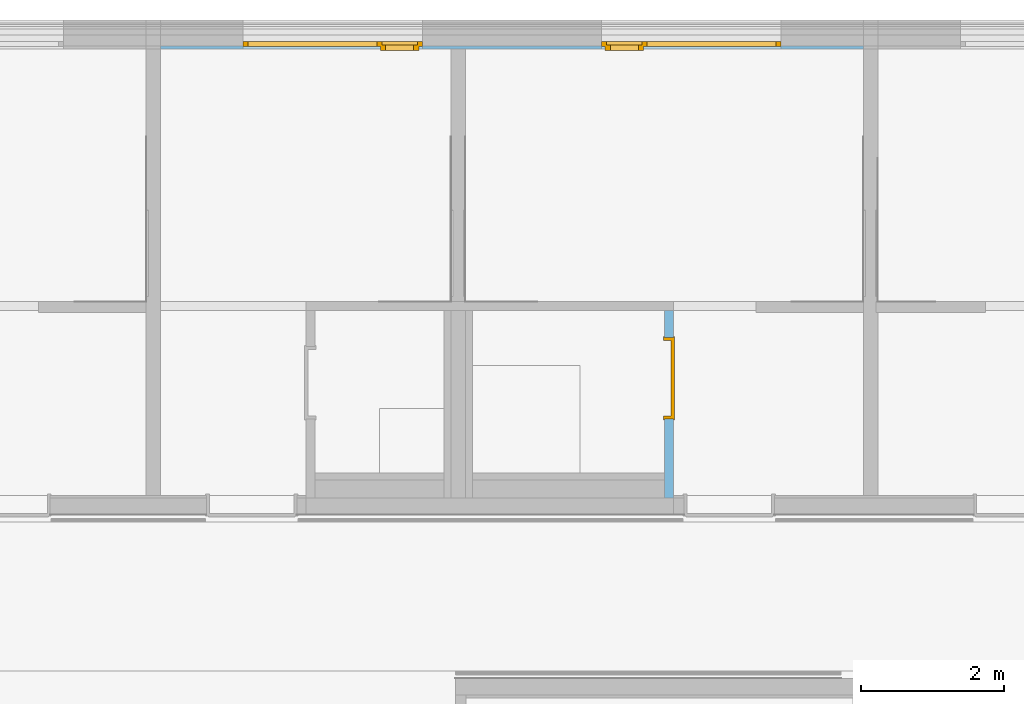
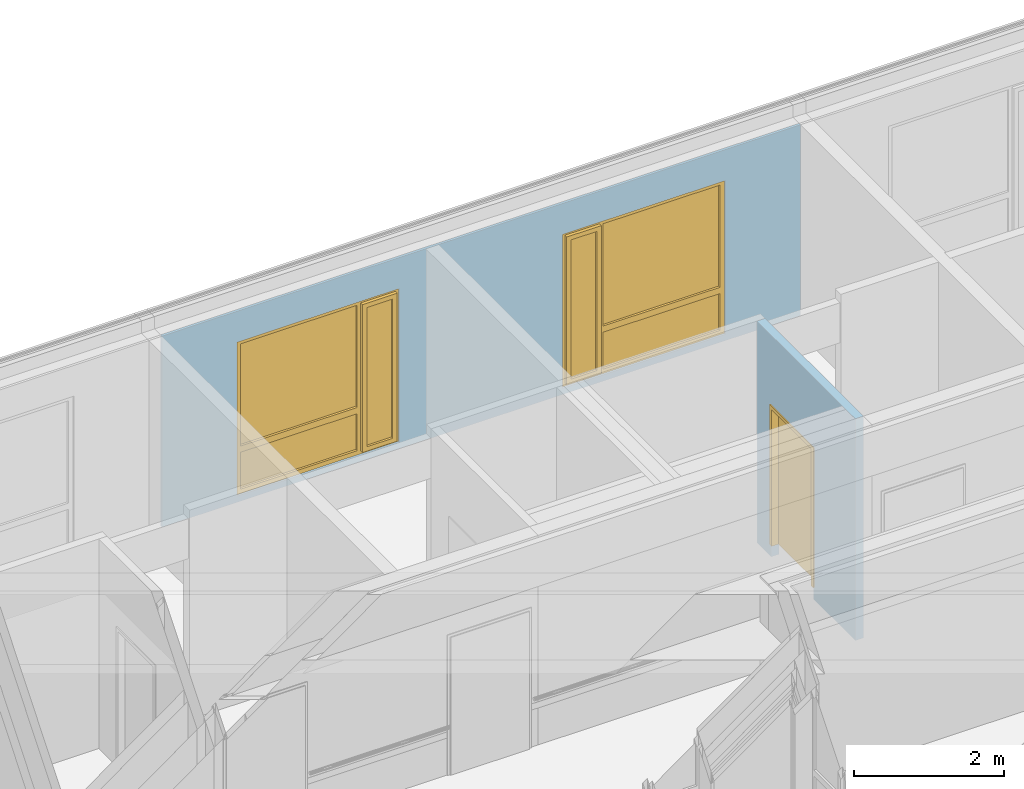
# One storey, part 149 of 207: 2 windows, 1 door, 3 openings, plus 2 elements that do not belong to this part.
"""IFC4 building model written with IfcOpenShell, lengths in metres."""

from ifc_helpers import new_model, entity, si_unit, converted_unit, derived_unit, frame, frame_2d, origin, origin_with_axes, place, context, subcontext, project, spatial, polyline, rectangle, outline, extrude, closed_shell, open_shell, faceted_brep, surface_model, source, transform, mapped, material, type_object, element, fill, save


model = new_model("IFC4")

# Units and contexts
model_context = context("Model", 3, precision=1e-05, world=origin())
body_context = subcontext(model_context, "Body", "Model", "MODEL_VIEW")
ifc_project = project(units=[si_unit("LENGTHUNIT", "METRE"), si_unit("AREAUNIT", "SQUARE_METRE"), si_unit("VOLUMEUNIT", "CUBIC_METRE"), si_unit("MASSUNIT", "GRAM", prefix="KILO"), converted_unit("PLANEANGLEUNIT", "DEGREE", entity("IfcPlaneAngleMeasure", 0.0174532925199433), si_unit("PLANEANGLEUNIT", "RADIAN"), dimensions=[0, 0, 0, 0, 0, 0, 0]), derived_unit("THERMALTRANSMITTANCEUNIT", [(si_unit("POWERUNIT", "WATT"), 1), (si_unit("THERMODYNAMICTEMPERATUREUNIT", "KELVIN"), -1), (si_unit("LENGTHUNIT", "METRE"), -2)]), derived_unit("VOLUMETRICFLOWRATEUNIT", [(si_unit("LENGTHUNIT", "METRE"), 3), (converted_unit("TIMEUNIT", "hour", entity("IfcTimeMeasure", 3600.0), si_unit("TIMEUNIT", "SECOND"), dimensions=[0, 0, 1, 0, 0, 0, 0]), -1), (si_unit("LENGTHUNIT", "METRE"), -1)])], contexts=[model_context])

# Site, building, storey
site_placement = place(None, origin())
site = spatial("IfcSite", under=ifc_project, at=site_placement, Name="Psychiatrie Neubau Wunstorf", CompositionType="ELEMENT")
building_placement = place(site_placement, origin())
building = spatial("IfcBuilding", under=site, at=building_placement, Name="Neubau H2 Stationsgebäude", CompositionType="ELEMENT")
storey_placement = place(building_placement, frame((0.0, 0.0, -0.2)))
storey = spatial("IfcBuildingStorey", under=building, at=storey_placement, Name="H2 Ebene 0", CompositionType="ELEMENT", Elevation=-0.2)

# Wall, openings, windows
ifc_material_1 = material(Name="WA-LB")
wall_1_placement = place(storey_placement, frame((86.1, 31.614, 0.5)))
wall_1 = element("IfcWall", 1, at=wall_1_placement, inside=storey, material=ifc_material_1, context=body_context, shape_type="SweptSolid", body=[
    extrude(rectangle(XDim=9.8, YDim=0.036, at=frame_2d((4.9, 0.018), x_axis=(1.0, 0.0))), origin_with_axes(), (0.0, 0.0, 1.0), 3.1),
])
opening_1_placement = place(wall_1_placement, frame((6.15, 0.0, 0.1), z_axis=(0.0, 1.0, 0.0), x_axis=(0.0, 0.0, 1.0)))
opening_1 = element("IfcOpeningElement", 2, at=opening_1_placement, cuts=wall_1, Name="Fensteröffnung", ObjectType="Opening", context=body_context, shape_type="SweptSolid", body=[
    extrude(outline(polyline([(2.5, 2.5), (2.5, 0.0), (0.0, 0.0), (0.0, 2.5), (2.5, 2.5)])), origin_with_axes(), (0.0, 0.0, 1.0), 0.036),
])
opening_2_placement = place(wall_1_placement, frame((1.15, 0.0, 0.1), z_axis=(0.0, 1.0, 0.0), x_axis=(0.0, 0.0, 1.0)))
opening_2 = element("IfcOpeningElement", 3, at=opening_2_placement, cuts=wall_1, Name="Fensteröffnung", ObjectType="Opening", context=body_context, shape_type="SweptSolid", body=[
    extrude(outline(polyline([(2.5, 2.5), (2.5, 0.0), (0.0, 0.0), (0.0, 2.5), (2.5, 2.5)])), origin_with_axes(), (0.0, 0.0, 1.0), 0.036),
])
shared_shape_1 = source(origin_with_axes(), body_context, "Body", "SurfaceModel", [
    surface_model("IfcShellBasedSurfaceModel", [(0.0, 0.0, 2.5), (0.07, 0.0, 2.5), (0.07, 0.0, 0.0), (0.0, 0.0, 0.0), (0.0, 0.0699999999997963, 0.0), (0.07, 0.0699999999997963, 0.0), (0.07, 0.0699999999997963, 2.5), (0.0, 0.0699999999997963, 2.5)], [closed_shell([[[0, 1, 2, 3]], [[4, 5, 6, 7]], [[3, 4, 7, 0]], [[2, 5, 4, 3]], [[1, 6, 5, 2]], [[0, 7, 6, 1]]], orient=[[False], [False], [False], [False], [False], [False]])]),
    surface_model("IfcShellBasedSurfaceModel", [(2.43, 0.0, 2.5), (2.5, 0.0, 2.5), (2.5, 0.0, 0.0), (2.43, 0.0, 0.0), (2.43, 0.0699999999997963, 0.0), (2.5, 0.0699999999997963, 0.0), (2.5, 0.0699999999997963, 2.5), (2.43, 0.0699999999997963, 2.5)], [closed_shell([[[0, 1, 2, 3]], [[4, 5, 6, 7]], [[3, 4, 7, 0]], [[2, 5, 4, 3]], [[1, 6, 5, 2]], [[0, 7, 6, 1]]], orient=[[False], [False], [False], [False], [False], [False]])]),
    surface_model("IfcShellBasedSurfaceModel", [(0.07, 0.0, 0.07), (2.43, 0.0, 0.07), (2.43, 0.0, 0.0), (0.07, 0.0, 0.0), (0.07, 0.0699999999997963, 0.0), (2.43, 0.0699999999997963, 0.0), (2.43, 0.0699999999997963, 0.07), (0.07, 0.0699999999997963, 0.07)], [closed_shell([[[0, 1, 2, 3]], [[4, 5, 6, 7]], [[3, 4, 7, 0]], [[2, 5, 4, 3]], [[1, 6, 5, 2]], [[0, 7, 6, 1]]], orient=[[False], [False], [False], [False], [False], [False]])]),
    surface_model("IfcShellBasedSurfaceModel", [(0.07, 0.0, 2.5), (2.43, 0.0, 2.5), (2.43, 0.0, 2.43), (0.07, 0.0, 2.43), (0.07, 0.0699999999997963, 2.43), (2.43, 0.0699999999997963, 2.43), (2.43, 0.0699999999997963, 2.5), (0.07, 0.0699999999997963, 2.5)], [closed_shell([[[0, 1, 2, 3]], [[4, 5, 6, 7]], [[3, 4, 7, 0]], [[2, 5, 4, 3]], [[1, 6, 5, 2]], [[0, 7, 6, 1]]], orient=[[False], [False], [False], [False], [False], [False]])]),
    surface_model("IfcShellBasedSurfaceModel", [(0.565714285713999, 0.0, 2.43), (0.635714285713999, 0.0, 2.43), (0.635714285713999, 0.0, 0.07), (0.565714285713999, 0.0, 0.07), (0.565714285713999, 0.0699999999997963, 0.07), (0.635714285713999, 0.0699999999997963, 0.07), (0.635714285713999, 0.0699999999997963, 2.43), (0.565714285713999, 0.0699999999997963, 2.43)], [closed_shell([[[0, 1, 2, 3]], [[4, 5, 6, 7]], [[3, 4, 7, 0]], [[2, 5, 4, 3]], [[1, 6, 5, 2]], [[0, 7, 6, 1]]], orient=[[False], [False], [False], [False], [False], [False]])]),
    surface_model("IfcShellBasedSurfaceModel", [(0.05, -0.0500000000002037, 2.45), (0.12, -0.0500000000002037, 2.45), (0.12, -0.0500000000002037, 0.05), (0.05, -0.0500000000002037, 0.05), (0.05, 0.0199999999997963, 0.05), (0.12, 0.0199999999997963, 0.05), (0.12, 0.0199999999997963, 2.45), (0.05, 0.0199999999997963, 2.45)], [closed_shell([[[0, 1, 2, 3]], [[4, 5, 6, 7]], [[3, 4, 7, 0]], [[2, 5, 4, 3]], [[1, 6, 5, 2]], [[0, 7, 6, 1]]], orient=[[False], [False], [False], [False], [False], [False]])]),
    surface_model("IfcShellBasedSurfaceModel", [(0.515714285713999, -0.0500000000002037, 2.45), (0.585714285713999, -0.0500000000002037, 2.45), (0.585714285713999, -0.0500000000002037, 0.05), (0.515714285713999, -0.0500000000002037, 0.05), (0.515714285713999, 0.0199999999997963, 0.05), (0.585714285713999, 0.0199999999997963, 0.05), (0.585714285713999, 0.0199999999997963, 2.45), (0.515714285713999, 0.0199999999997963, 2.45)], [closed_shell([[[0, 1, 2, 3]], [[4, 5, 6, 7]], [[3, 4, 7, 0]], [[2, 5, 4, 3]], [[1, 6, 5, 2]], [[0, 7, 6, 1]]], orient=[[False], [False], [False], [False], [False], [False]])]),
    surface_model("IfcShellBasedSurfaceModel", [(0.12, -0.0500000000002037, 0.12), (0.515714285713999, -0.0500000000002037, 0.12), (0.515714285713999, -0.0500000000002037, 0.05), (0.12, -0.0500000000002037, 0.05), (0.12, 0.0199999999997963, 0.05), (0.515714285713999, 0.0199999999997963, 0.05), (0.515714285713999, 0.0199999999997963, 0.12), (0.12, 0.0199999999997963, 0.12)], [closed_shell([[[0, 1, 2, 3]], [[4, 5, 6, 7]], [[3, 4, 7, 0]], [[2, 5, 4, 3]], [[1, 6, 5, 2]], [[0, 7, 6, 1]]], orient=[[False], [False], [False], [False], [False], [False]])]),
    surface_model("IfcShellBasedSurfaceModel", [(0.12, -0.0500000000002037, 2.45), (0.515714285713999, -0.0500000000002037, 2.45), (0.515714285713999, -0.0500000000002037, 2.38), (0.12, -0.0500000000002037, 2.38), (0.12, 0.0199999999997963, 2.38), (0.515714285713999, 0.0199999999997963, 2.38), (0.515714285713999, 0.0199999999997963, 2.45), (0.12, 0.0199999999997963, 2.45)], [closed_shell([[[0, 1, 2, 3]], [[4, 5, 6, 7]], [[3, 4, 7, 0]], [[2, 5, 4, 3]], [[1, 6, 5, 2]], [[0, 7, 6, 1]]], orient=[[False], [False], [False], [False], [False], [False]])]),
    surface_model("IfcShellBasedSurfaceModel", [(0.635714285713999, 0.0, 0.77), (2.43, 0.0, 0.77), (2.43, 0.0, 0.67), (0.635714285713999, 0.0, 0.67), (0.635714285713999, 0.0699999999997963, 0.67), (2.43, 0.0699999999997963, 0.67), (2.43, 0.0699999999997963, 0.77), (0.635714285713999, 0.0699999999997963, 0.77)], [closed_shell([[[0, 1, 2, 3]], [[4, 5, 6, 7]], [[3, 4, 7, 0]], [[2, 5, 4, 3]], [[1, 6, 5, 2]], [[0, 7, 6, 1]]], orient=[[False], [False], [False], [False], [False], [False]])]),
    surface_model("IfcShellBasedSurfaceModel", [(0.12, -0.0150000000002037, 0.12), (0.12, -0.0150000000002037, 2.38), (0.515714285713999, -0.0150000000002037, 2.38), (0.515714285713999, -0.0150000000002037, 0.12)], [open_shell([[[0, 1, 2, 3]]], orient=[[False]])]),
    surface_model("IfcShellBasedSurfaceModel", [(0.635714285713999, 0.0349999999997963, 0.07), (0.635714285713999, 0.0349999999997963, 0.67), (2.43, 0.0349999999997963, 0.67), (2.43, 0.0349999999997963, 0.07)], [open_shell([[[0, 1, 2, 3]]], orient=[[False]])]),
    surface_model("IfcShellBasedSurfaceModel", [(0.635714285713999, 0.0349999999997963, 0.77), (0.635714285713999, 0.0349999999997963, 2.43), (2.43, 0.0349999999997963, 2.43), (2.43, 0.0349999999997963, 0.77)], [open_shell([[[0, 1, 2, 3]]], orient=[[False]])]),
])
window_1_placement = place(opening_1_placement, frame((0.0, 0.0, 0.03), z_axis=(1.0, 0.0, 0.0), x_axis=(0.0, 1.0, 0.0)))
window_1 = element("IfcWindow", 4, at=window_1_placement, inside=storey, Name="Fenster", OverallHeight=2.5, OverallWidth=2.5, PartitioningType="USERDEFINED", PredefinedType="WINDOW", context=body_context, shape_type="MappedRepresentation", body=[
    mapped(shared_shape_1, transform((0.0, 0.0, 0.0), x_axis=(1.0, 0.0, 0.0), y_axis=(0.0, 1.0, 0.0), z_axis=(0.0, 0.0, 1.0), scale=1.0)),
])
fill(opening_1, window_1)
shared_shape_2 = source(origin_with_axes(), body_context, "Body", "SurfaceModel", [
    surface_model("IfcShellBasedSurfaceModel", [(2.5, 0.0, 2.5), (2.5, 0.0, 0.0), (2.43, 0.0, 0.0), (2.43, 0.0, 2.5), (2.5, 0.0699999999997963, 0.0), (2.5, 0.0699999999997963, 2.5), (2.43, 0.0699999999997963, 2.5), (2.43, 0.0699999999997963, 0.0)], [closed_shell([[[0, 1, 2, 3]], [[4, 5, 6, 7]], [[1, 0, 5, 4]], [[2, 1, 4, 7]], [[3, 2, 7, 6]], [[0, 3, 6, 5]]], orient=[[False], [False], [False], [False], [False], [False]])]),
    surface_model("IfcShellBasedSurfaceModel", [(0.07, 0.0, 2.5), (0.07, 0.0, 0.0), (0.0, 0.0, 0.0), (0.0, 0.0, 2.5), (0.07, 0.0699999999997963, 0.0), (0.07, 0.0699999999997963, 2.5), (0.0, 0.0699999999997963, 2.5), (0.0, 0.0699999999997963, 0.0)], [closed_shell([[[0, 1, 2, 3]], [[4, 5, 6, 7]], [[1, 0, 5, 4]], [[2, 1, 4, 7]], [[3, 2, 7, 6]], [[0, 3, 6, 5]]], orient=[[False], [False], [False], [False], [False], [False]])]),
    surface_model("IfcShellBasedSurfaceModel", [(2.43, 0.0, 0.07), (2.43, 0.0, 0.0), (0.07, 0.0, 0.0), (0.07, 0.0, 0.07), (2.43, 0.0699999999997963, 0.0), (2.43, 0.0699999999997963, 0.07), (0.07, 0.0699999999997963, 0.07), (0.07, 0.0699999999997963, 0.0)], [closed_shell([[[0, 1, 2, 3]], [[4, 5, 6, 7]], [[1, 0, 5, 4]], [[2, 1, 4, 7]], [[3, 2, 7, 6]], [[0, 3, 6, 5]]], orient=[[False], [False], [False], [False], [False], [False]])]),
    surface_model("IfcShellBasedSurfaceModel", [(2.43, 0.0, 2.5), (2.43, 0.0, 2.43), (0.07, 0.0, 2.43), (0.07, 0.0, 2.5), (2.43, 0.0699999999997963, 2.43), (2.43, 0.0699999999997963, 2.5), (0.07, 0.0699999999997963, 2.5), (0.07, 0.0699999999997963, 2.43)], [closed_shell([[[0, 1, 2, 3]], [[4, 5, 6, 7]], [[1, 0, 5, 4]], [[2, 1, 4, 7]], [[3, 2, 7, 6]], [[0, 3, 6, 5]]], orient=[[False], [False], [False], [False], [False], [False]])]),
    surface_model("IfcShellBasedSurfaceModel", [(1.934285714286, 0.0, 2.43), (1.934285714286, 0.0, 0.07), (1.864285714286, 0.0, 0.07), (1.864285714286, 0.0, 2.43), (1.934285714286, 0.0699999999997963, 0.07), (1.934285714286, 0.0699999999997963, 2.43), (1.864285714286, 0.0699999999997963, 2.43), (1.864285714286, 0.0699999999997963, 0.07)], [closed_shell([[[0, 1, 2, 3]], [[4, 5, 6, 7]], [[1, 0, 5, 4]], [[2, 1, 4, 7]], [[3, 2, 7, 6]], [[0, 3, 6, 5]]], orient=[[False], [False], [False], [False], [False], [False]])]),
    surface_model("IfcShellBasedSurfaceModel", [(2.45, -0.05, 2.45), (2.45, -0.05, 0.05), (2.38, -0.05, 0.05), (2.38, -0.05, 2.45), (2.45, 0.0199999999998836, 0.05), (2.45, 0.0199999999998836, 2.45), (2.38, 0.0199999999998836, 2.45), (2.38, 0.0199999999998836, 0.05)], [closed_shell([[[0, 1, 2, 3]], [[4, 5, 6, 7]], [[1, 0, 5, 4]], [[2, 1, 4, 7]], [[3, 2, 7, 6]], [[0, 3, 6, 5]]], orient=[[False], [False], [False], [False], [False], [False]])]),
    surface_model("IfcShellBasedSurfaceModel", [(1.984285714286, -0.05, 2.45), (1.984285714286, -0.05, 0.05), (1.914285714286, -0.05, 0.05), (1.914285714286, -0.05, 2.45), (1.984285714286, 0.0199999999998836, 0.05), (1.984285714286, 0.0199999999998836, 2.45), (1.914285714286, 0.0199999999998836, 2.45), (1.914285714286, 0.0199999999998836, 0.05)], [closed_shell([[[0, 1, 2, 3]], [[4, 5, 6, 7]], [[1, 0, 5, 4]], [[2, 1, 4, 7]], [[3, 2, 7, 6]], [[0, 3, 6, 5]]], orient=[[False], [False], [False], [False], [False], [False]])]),
    surface_model("IfcShellBasedSurfaceModel", [(2.38, -0.05, 0.12), (2.38, -0.05, 0.05), (1.984285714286, -0.05, 0.05), (1.984285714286, -0.05, 0.12), (2.38, 0.0199999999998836, 0.05), (2.38, 0.0199999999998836, 0.12), (1.984285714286, 0.0199999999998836, 0.12), (1.984285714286, 0.0199999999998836, 0.05)], [closed_shell([[[0, 1, 2, 3]], [[4, 5, 6, 7]], [[1, 0, 5, 4]], [[2, 1, 4, 7]], [[3, 2, 7, 6]], [[0, 3, 6, 5]]], orient=[[False], [False], [False], [False], [False], [False]])]),
    surface_model("IfcShellBasedSurfaceModel", [(2.38, -0.05, 2.45), (2.38, -0.05, 2.38), (1.984285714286, -0.05, 2.38), (1.984285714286, -0.05, 2.45), (2.38, 0.0199999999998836, 2.38), (2.38, 0.0199999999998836, 2.45), (1.984285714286, 0.0199999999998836, 2.45), (1.984285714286, 0.0199999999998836, 2.38)], [closed_shell([[[0, 1, 2, 3]], [[4, 5, 6, 7]], [[1, 0, 5, 4]], [[2, 1, 4, 7]], [[3, 2, 7, 6]], [[0, 3, 6, 5]]], orient=[[False], [False], [False], [False], [False], [False]])]),
    surface_model("IfcShellBasedSurfaceModel", [(1.864285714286, 0.0, 0.77), (1.864285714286, 0.0, 0.67), (0.07, 0.0, 0.67), (0.07, 0.0, 0.77), (1.864285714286, 0.0699999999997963, 0.67), (1.864285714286, 0.0699999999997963, 0.77), (0.07, 0.0699999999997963, 0.77), (0.07, 0.0699999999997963, 0.67)], [closed_shell([[[0, 1, 2, 3]], [[4, 5, 6, 7]], [[1, 0, 5, 4]], [[2, 1, 4, 7]], [[3, 2, 7, 6]], [[0, 3, 6, 5]]], orient=[[False], [False], [False], [False], [False], [False]])]),
    surface_model("IfcShellBasedSurfaceModel", [(2.38, -0.0150000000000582, 0.12), (1.984285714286, -0.0150000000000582, 0.12), (1.984285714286, -0.0150000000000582, 2.38), (2.38, -0.0150000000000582, 2.38)], [open_shell([[[0, 1, 2, 3]]], orient=[[False]])]),
    surface_model("IfcShellBasedSurfaceModel", [(1.864285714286, 0.0349999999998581, 0.07), (0.07, 0.0349999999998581, 0.07), (0.07, 0.0349999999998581, 0.67), (1.864285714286, 0.0349999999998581, 0.67)], [open_shell([[[0, 1, 2, 3]]], orient=[[False]])]),
    surface_model("IfcShellBasedSurfaceModel", [(1.864285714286, 0.0349999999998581, 0.77), (0.07, 0.0349999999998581, 0.77), (0.07, 0.0349999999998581, 2.43), (1.864285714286, 0.0349999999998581, 2.43)], [open_shell([[[0, 1, 2, 3]]], orient=[[False]])]),
])
window_2_placement = place(opening_2_placement, frame((0.0, 0.0, 0.03), z_axis=(1.0, 0.0, 0.0), x_axis=(0.0, 1.0, 0.0)))
window_2 = element("IfcWindow", 5, at=window_2_placement, inside=storey, Name="Fenster", OverallHeight=2.5, OverallWidth=2.5, PartitioningType="USERDEFINED", PredefinedType="WINDOW", context=body_context, shape_type="MappedRepresentation", body=[
    mapped(shared_shape_2, transform((0.0, 0.0, 0.0), x_axis=(1.0, 0.0, 0.0), y_axis=(0.0, 1.0, 0.0), z_axis=(0.0, 0.0, 1.0), scale=1.0)),
])
fill(opening_2, window_2)

# Wall, opening, door
ifc_material_2 = material(Name="WI-LB")
wall_2_placement = place(storey_placement, frame((93.125, 27.9645, 0.0), z_axis=(0.0, 0.0, 1.0), x_axis=(0.0, -1.0, 0.0)))
wall_2 = element("IfcWall", 6, at=wall_2_placement, inside=storey, material=ifc_material_2, context=body_context, shape_type="SweptSolid", body=[
    extrude(rectangle(XDim=2.615, YDim=0.125, at=frame_2d((1.3075, 0.0625), x_axis=(1.0, 0.0))), origin_with_axes(), (0.0, 0.0, 1.0), 3.6),
])
opening_3_placement = place(wall_2_placement, frame((0.375, 0.0, 0.0), z_axis=(0.0, 1.0, 0.0), x_axis=(0.0, 0.0, 1.0)))
opening_3 = element("IfcOpeningElement", 7, at=opening_3_placement, cuts=wall_2, Name="Türöffnung", ObjectType="Opening", context=body_context, shape_type="SweptSolid", body=[
    extrude(outline(polyline([(2.46, 1.135), (2.46, 0.0), (0.0, 0.0), (0.0, 1.135), (2.46, 1.135)])), origin_with_axes(), (0.0, 0.0, 1.0), 0.125),
])
ifc_material_3 = material(Name="TI-1F-UZ-D-N")
door_type = type_object("IfcDoorType", Name="SMT", OperationType="SINGLE_SWING_RIGHT", ParameterTakesPrecedence=False, PredefinedType="DOOR")
shared_shape_3 = source(origin_with_axes(), body_context, "Body", "Brep", [
    faceted_brep([(1.18500000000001, 0.0124999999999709, 0.0), (1.18500000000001, 0.112499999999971, 0.0), (1.13500000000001, 0.112499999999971, 0.0), (1.13500000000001, 0.0124999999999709, 0.0), (1.18500000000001, 0.112499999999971, 3.6), (1.18500000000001, 0.0124999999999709, 3.6), (1.13500000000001, 0.0124999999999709, 3.6), (1.13500000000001, 0.112499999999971, 3.6)], [[[0, 1, 2, 3]], [[4, 5, 6, 7]], [[1, 0, 5, 4]], [[2, 1, 4, 7]], [[3, 2, 7, 6]], [[0, 3, 6, 5]]], orient=[[False], [False], [False], [False], [False], [False]]),
    faceted_brep([(0.0, 0.0124999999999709, 0.0), (0.0, 0.112499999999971, 0.0), (-0.0499999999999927, 0.112499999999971, 0.0), (-0.0499999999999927, 0.0124999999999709, 0.0), (0.0, 0.112499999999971, 3.6), (0.0, 0.0124999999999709, 3.6), (-0.0499999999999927, 0.0124999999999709, 3.6), (-0.0499999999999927, 0.112499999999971, 3.6)], [[[0, 1, 2, 3]], [[4, 5, 6, 7]], [[1, 0, 5, 4]], [[2, 1, 4, 7]], [[3, 2, 7, 6]], [[0, 3, 6, 5]]], orient=[[False], [False], [False], [False], [False], [False]]),
    faceted_brep([(1.13500000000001, 0.0124999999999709, 2.46), (1.13500000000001, 0.112499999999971, 2.46), (0.0, 0.112499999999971, 2.46), (0.0, 0.0124999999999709, 2.46), (1.13500000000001, 0.112499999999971, 2.51), (1.13500000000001, 0.0124999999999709, 2.51), (0.0, 0.0124999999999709, 2.51), (0.0, 0.112499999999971, 2.51)], [[[0, 1, 2, 3]], [[4, 5, 6, 7]], [[1, 0, 5, 4]], [[2, 1, 4, 7]], [[3, 2, 7, 6]], [[0, 3, 6, 5]]], orient=[[False], [False], [False], [False], [False], [False]]),
])
shared_shape_4 = source(origin_with_axes(), body_context, "Body", "Brep", [
    faceted_brep([(1.13500000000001, -0.0150000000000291, 2.46), (1.13500000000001, -0.0150000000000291, 0.2), (1.09500000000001, -0.0150000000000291, 0.2), (1.09500000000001, -0.0150000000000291, 2.46), (1.13500000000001, 0.139999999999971, 0.2), (1.13500000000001, 0.139999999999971, 2.46), (1.09500000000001, 0.139999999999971, 2.46), (1.09500000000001, 0.139999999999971, 0.2)], [[[0, 1, 2, 3]], [[4, 5, 6, 7]], [[1, 0, 5, 4]], [[2, 1, 4, 7]], [[3, 2, 7, 6]], [[0, 3, 6, 5]]], orient=[[False], [False], [False], [False], [False], [False]]),
    faceted_brep([(1.13500000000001, -0.0150000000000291, 2.475), (1.15000000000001, -0.0150000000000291, 2.475), (1.15000000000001, -0.0150000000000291, 0.2), (1.13500000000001, -0.0150000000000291, 0.2), (1.13500000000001, 0.0, 0.2), (1.15000000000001, 0.0, 0.2), (1.15000000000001, 0.0, 2.475), (1.13500000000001, 0.0, 2.475)], [[[0, 1, 2, 3]], [[4, 5, 6, 7]], [[3, 4, 7, 0]], [[2, 5, 4, 3]], [[1, 6, 5, 2]], [[0, 7, 6, 1]]], orient=[[False], [False], [False], [False], [False], [False]]),
    faceted_brep([(1.13500000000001, 0.124999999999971, 2.475), (1.15000000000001, 0.124999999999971, 2.475), (1.15000000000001, 0.124999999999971, 0.2), (1.13500000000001, 0.124999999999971, 0.2), (1.13500000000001, 0.139999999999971, 0.2), (1.15000000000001, 0.139999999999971, 0.2), (1.15000000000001, 0.139999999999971, 2.475), (1.13500000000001, 0.139999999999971, 2.475)], [[[0, 1, 2, 3]], [[4, 5, 6, 7]], [[3, 4, 7, 0]], [[2, 5, 4, 3]], [[1, 6, 5, 2]], [[0, 7, 6, 1]]], orient=[[False], [False], [False], [False], [False], [False]]),
    faceted_brep([(0.0400000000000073, -0.0150000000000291, 2.46), (0.0400000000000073, -0.0150000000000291, 0.2), (0.0, -0.0150000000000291, 0.2), (0.0, -0.0150000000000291, 2.46), (0.0400000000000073, 0.139999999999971, 0.2), (0.0400000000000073, 0.139999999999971, 2.46), (0.0, 0.139999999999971, 2.46), (0.0, 0.139999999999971, 0.2)], [[[0, 1, 2, 3]], [[4, 5, 6, 7]], [[1, 0, 5, 4]], [[2, 1, 4, 7]], [[3, 2, 7, 6]], [[0, 3, 6, 5]]], orient=[[False], [False], [False], [False], [False], [False]]),
    faceted_brep([(0.0, -0.0150000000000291, 2.475), (0.0, -0.0150000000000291, 0.2), (-0.0149999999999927, -0.0150000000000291, 0.2), (-0.0149999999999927, -0.0150000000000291, 2.475), (0.0, 0.0, 0.2), (0.0, 0.0, 2.475), (-0.0149999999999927, 0.0, 2.475), (-0.0149999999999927, 0.0, 0.2)], [[[0, 1, 2, 3]], [[4, 5, 6, 7]], [[1, 0, 5, 4]], [[2, 1, 4, 7]], [[3, 2, 7, 6]], [[0, 3, 6, 5]]], orient=[[False], [False], [False], [False], [False], [False]]),
    faceted_brep([(0.0, 0.124999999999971, 2.475), (0.0, 0.124999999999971, 0.2), (-0.0149999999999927, 0.124999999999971, 0.2), (-0.0149999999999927, 0.124999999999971, 2.475), (0.0, 0.139999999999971, 0.2), (0.0, 0.139999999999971, 2.475), (-0.0149999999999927, 0.139999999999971, 2.475), (-0.0149999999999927, 0.139999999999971, 0.2)], [[[0, 1, 2, 3]], [[4, 5, 6, 7]], [[1, 0, 5, 4]], [[2, 1, 4, 7]], [[3, 2, 7, 6]], [[0, 3, 6, 5]]], orient=[[False], [False], [False], [False], [False], [False]]),
    faceted_brep([(1.09500000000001, -0.0150000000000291, 2.46), (1.09500000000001, -0.0150000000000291, 2.42), (0.0400000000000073, -0.0150000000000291, 2.42), (0.0400000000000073, -0.0150000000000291, 2.46), (1.09500000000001, 0.139999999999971, 2.42), (1.09500000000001, 0.139999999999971, 2.46), (0.0400000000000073, 0.139999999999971, 2.46), (0.0400000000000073, 0.139999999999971, 2.42)], [[[0, 1, 2, 3]], [[4, 5, 6, 7]], [[1, 0, 5, 4]], [[2, 1, 4, 7]], [[3, 2, 7, 6]], [[0, 3, 6, 5]]], orient=[[False], [False], [False], [False], [False], [False]]),
    faceted_brep([(1.13500000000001, -0.0150000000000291, 2.475), (1.13500000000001, -0.0150000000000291, 2.46), (0.0, -0.0150000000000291, 2.46), (0.0, -0.0150000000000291, 2.475), (1.13500000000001, 0.0, 2.46), (1.13500000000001, 0.0, 2.475), (0.0, 0.0, 2.475), (0.0, 0.0, 2.46)], [[[0, 1, 2, 3]], [[4, 5, 6, 7]], [[1, 0, 5, 4]], [[2, 1, 4, 7]], [[3, 2, 7, 6]], [[0, 3, 6, 5]]], orient=[[False], [False], [False], [False], [False], [False]]),
    faceted_brep([(1.13500000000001, 0.124999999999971, 2.475), (1.13500000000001, 0.124999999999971, 2.46), (0.0, 0.124999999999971, 2.46), (0.0, 0.124999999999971, 2.475), (1.13500000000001, 0.139999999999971, 2.46), (1.13500000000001, 0.139999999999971, 2.475), (0.0, 0.139999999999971, 2.475), (0.0, 0.139999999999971, 2.46)], [[[0, 1, 2, 3]], [[4, 5, 6, 7]], [[1, 0, 5, 4]], [[2, 1, 4, 7]], [[3, 2, 7, 6]], [[0, 3, 6, 5]]], orient=[[False], [False], [False], [False], [False], [False]]),
    faceted_brep([(1.11000000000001, 0.0909999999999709, 2.435), (1.11000000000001, 0.0909999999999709, 0.2), (0.0250000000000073, 0.0909999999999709, 0.2), (0.0250000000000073, 0.0909999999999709, 2.435), (1.11000000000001, 0.140999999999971, 0.2), (1.11000000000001, 0.140999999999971, 2.435), (0.0250000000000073, 0.140999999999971, 2.435), (0.0250000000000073, 0.140999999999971, 0.2)], [[[0, 1, 2, 3]], [[4, 5, 6, 7]], [[1, 0, 5, 4]], [[2, 1, 4, 7]], [[3, 2, 7, 6]], [[0, 3, 6, 5]]], orient=[[False], [False], [False], [False], [False], [False]]),
])
door_placement = place(opening_3_placement, frame((0.0, 0.0, 0.0), z_axis=(1.0, 0.0, 0.0), x_axis=(0.0, 1.0, 0.0)))
door = element("IfcDoor", 8, at=door_placement, inside=storey, type_object=door_type, material=ifc_material_3, Name="SMT", OverallHeight=2.46, OverallWidth=1.135, context=body_context, shape_type="MappedRepresentation", body=[
    mapped(shared_shape_3, transform((0.0, 0.0, 0.0), x_axis=(1.0, 0.0, 0.0), y_axis=(0.0, 1.0, 0.0), z_axis=(0.0, 0.0, 1.0), scale=1.0)),
    mapped(shared_shape_4, transform((0.0, 0.0, 0.0), x_axis=(1.0, 0.0, 0.0), y_axis=(0.0, 1.0, 0.0), z_axis=(0.0, 0.0, 1.0), scale=1.0)),
])
fill(opening_3, door)

save(model, "model.ifc")
